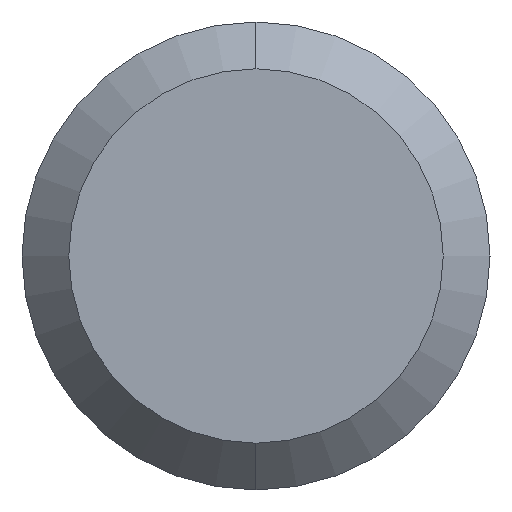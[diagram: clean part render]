
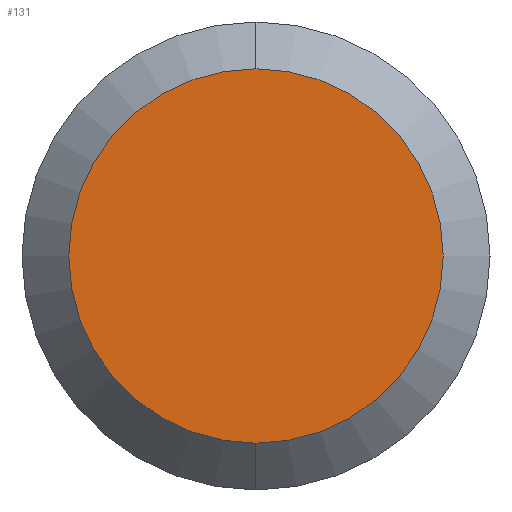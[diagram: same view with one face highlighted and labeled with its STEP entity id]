
A CAD part, left-side view. The second image highlights one B-rep face of the part: STEP entity #131.
In plain terms, the highlighted planar face has unit normal (-1, 0, 0).
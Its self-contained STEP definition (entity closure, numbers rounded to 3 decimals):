
#23 = EDGE_LOOP ( 'NONE', ( #413, #282 ) ) ;
#55 = DIRECTION ( 'NONE',  ( 0., 0., 1. ) ) ;
#64 = CARTESIAN_POINT ( 'NONE',  ( 0., 0., 2.4 ) ) ;
#83 = DIRECTION ( 'NONE',  ( 0., 0., -1. ) ) ;
#95 = CARTESIAN_POINT ( 'NONE',  ( 0., 0., 0. ) ) ;
#97 = EDGE_CURVE ( 'NONE', #307, #266, #400, .T. ) ;
#119 = DIRECTION ( 'NONE',  ( -1., 0., 0. ) ) ;
#131 = ADVANCED_FACE ( 'NONE', ( #146 ), #397, .F. ) ;
#146 = FACE_OUTER_BOUND ( 'NONE', #23, .T. ) ;
#151 = AXIS2_PLACEMENT_3D ( 'NONE', #252, #119, #55 ) ;
#154 = CIRCLE ( 'NONE', #419, 2.4 ) ;
#195 = AXIS2_PLACEMENT_3D ( 'NONE', #288, #285, #83 ) ;
#201 = EDGE_CURVE ( 'NONE', #266, #307, #154, .T. ) ;
#252 = CARTESIAN_POINT ( 'NONE',  ( 0., 0., 0. ) ) ;
#260 = CARTESIAN_POINT ( 'NONE',  ( 0., 0., -2.4 ) ) ;
#266 = VERTEX_POINT ( 'NONE', #260 ) ;
#282 = ORIENTED_EDGE ( 'NONE', *, *, #97, .T. ) ;
#285 = DIRECTION ( 'NONE',  ( 1., 0., 0. ) ) ;
#288 = CARTESIAN_POINT ( 'NONE',  ( 0., 0., 0. ) ) ;
#295 = DIRECTION ( 'NONE',  ( 0., 0., 1. ) ) ;
#303 = DIRECTION ( 'NONE',  ( -1., 0., 0. ) ) ;
#307 = VERTEX_POINT ( 'NONE', #64 ) ;
#397 = PLANE ( 'NONE',  #195 ) ;
#400 = CIRCLE ( 'NONE', #151, 2.4 ) ;
#413 = ORIENTED_EDGE ( 'NONE', *, *, #201, .T. ) ;
#419 = AXIS2_PLACEMENT_3D ( 'NONE', #95, #303, #295 ) ;
